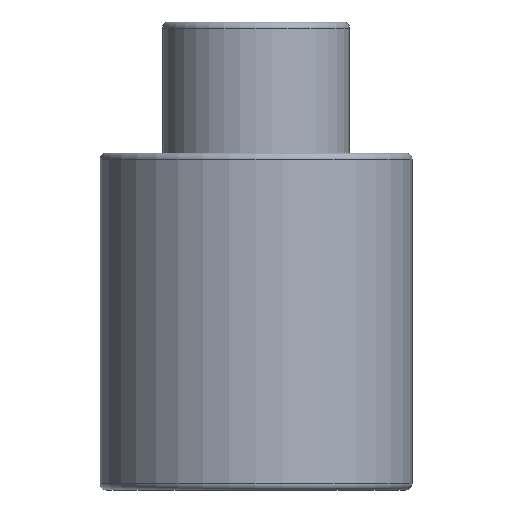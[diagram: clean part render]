
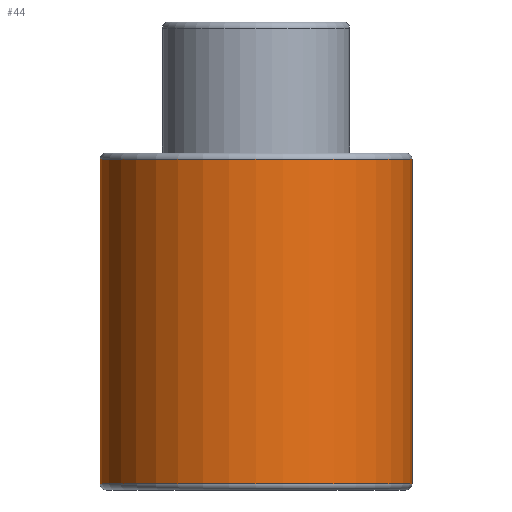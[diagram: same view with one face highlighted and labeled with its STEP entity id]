
A CAD part, front view. The second image highlights one B-rep face of the part: STEP entity #44.
In plain terms, the highlighted cylindrical face has radius 25 mm (diameter 50 mm), a full revolution.
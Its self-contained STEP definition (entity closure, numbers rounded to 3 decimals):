
#44=ADVANCED_FACE('',(#60,#61),#56,.T.);
#56=CYLINDRICAL_SURFACE('',#166,25.);
#60=FACE_BOUND('',#84,.T.);
#61=FACE_BOUND('',#85,.T.);
#84=EDGE_LOOP('',(#106));
#85=EDGE_LOOP('',(#107));
#106=ORIENTED_EDGE('',*,*,#141,.F.);
#107=ORIENTED_EDGE('',*,*,#142,.T.);
#128=VERTEX_POINT('',#237);
#129=VERTEX_POINT('',#239);
#141=EDGE_CURVE('',#128,#128,#152,.T.);
#142=EDGE_CURVE('',#129,#129,#153,.T.);
#152=CIRCLE('',#164,25.);
#153=CIRCLE('',#165,25.);
#164=AXIS2_PLACEMENT_3D('',#236,#189,#190);
#165=AXIS2_PLACEMENT_3D('',#238,#191,#192);
#166=AXIS2_PLACEMENT_3D('',#240,#193,#194);
#189=DIRECTION('',(0.,0.,-1.));
#190=DIRECTION('',(-1.,0.,0.));
#191=DIRECTION('',(0.,0.,-1.));
#192=DIRECTION('',(-1.,0.,0.));
#193=DIRECTION('',(0.,0.,-1.));
#194=DIRECTION('',(-1.,0.,0.));
#236=CARTESIAN_POINT('',(0.,0.,1.));
#237=CARTESIAN_POINT('',(-25.,0.,1.));
#238=CARTESIAN_POINT('',(0.,0.,53.));
#239=CARTESIAN_POINT('',(-25.,0.,53.));
#240=CARTESIAN_POINT('',(0.,0.,0.));
